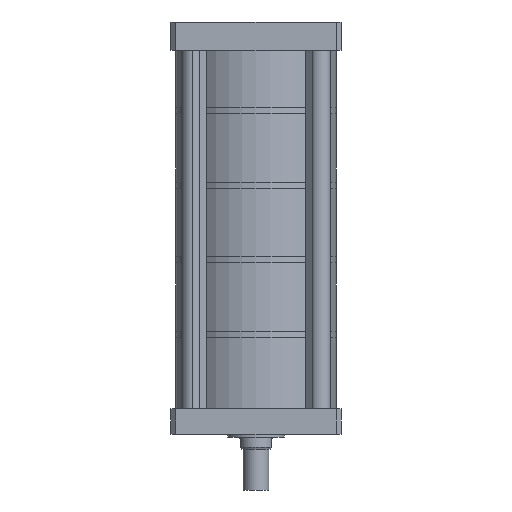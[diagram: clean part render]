
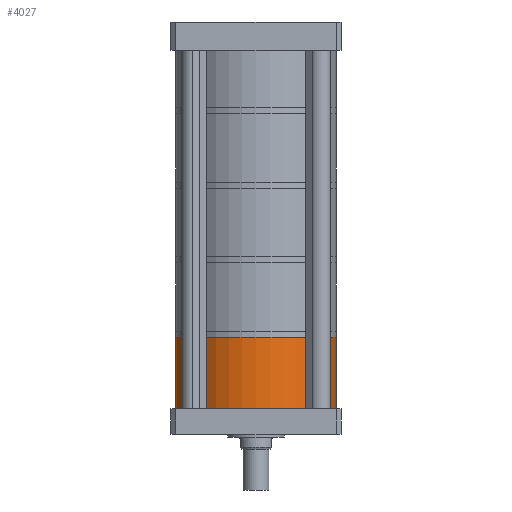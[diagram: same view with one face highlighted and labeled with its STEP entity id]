
A CAD part, front view. The second image highlights one B-rep face of the part: STEP entity #4027.
In plain terms, the highlighted cylindrical face has radius 85 mm (diameter 170 mm), a partial arc.
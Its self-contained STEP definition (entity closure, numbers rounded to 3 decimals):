
#470 = CARTESIAN_POINT ( 'NONE',  ( 85., 0., -304. ) ) ;
#486 = CARTESIAN_POINT ( 'NONE',  ( 0., 0., -304. ) ) ;
#889 = ORIENTED_EDGE ( 'NONE', *, *, #7995, .T. ) ;
#1402 = DIRECTION ( 'NONE',  ( -1., 0., 0. ) ) ;
#1490 = LINE ( 'NONE', #10556, #6151 ) ;
#2097 = CARTESIAN_POINT ( 'NONE',  ( -85., 0., -379.5 ) ) ;
#2676 = DIRECTION ( 'NONE',  ( 0., 0., 1. ) ) ;
#3001 = DIRECTION ( 'NONE',  ( 0., 0., 1. ) ) ;
#3371 = VECTOR ( 'NONE', #3001, 1000. ) ;
#3473 = AXIS2_PLACEMENT_3D ( 'NONE', #486, #6959, #1402 ) ;
#3531 = CARTESIAN_POINT ( 'NONE',  ( 0., 0., -379.5 ) ) ;
#3752 = EDGE_LOOP ( 'NONE', ( #6802, #10687, #889, #4582 ) ) ;
#4027 = ADVANCED_FACE ( 'NONE', ( #6735 ), #11288, .T. ) ;
#4447 = DIRECTION ( 'NONE',  ( 1., 0., 0. ) ) ;
#4452 = DIRECTION ( 'NONE',  ( -1., 0., 0. ) ) ;
#4582 = ORIENTED_EDGE ( 'NONE', *, *, #8936, .T. ) ;
#4691 = AXIS2_PLACEMENT_3D ( 'NONE', #3531, #9973, #4452 ) ;
#5035 = DIRECTION ( 'NONE',  ( 0., 0., 1. ) ) ;
#5434 = CARTESIAN_POINT ( 'NONE',  ( 0., 0., -379.5 ) ) ;
#5520 = VERTEX_POINT ( 'NONE', #11731 ) ;
#6151 = VECTOR ( 'NONE', #5035, 1000. ) ;
#6735 = FACE_OUTER_BOUND ( 'NONE', #3752, .T. ) ;
#6802 = ORIENTED_EDGE ( 'NONE', *, *, #7579, .F. ) ;
#6959 = DIRECTION ( 'NONE',  ( 0., 0., -1. ) ) ;
#7287 = CIRCLE ( 'NONE', #4691, 85. ) ;
#7579 = EDGE_CURVE ( 'NONE', #7919, #5520, #8290, .T. ) ;
#7699 = CARTESIAN_POINT ( 'NONE',  ( 85., 0., -379.5 ) ) ;
#7919 = VERTEX_POINT ( 'NONE', #11339 ) ;
#7995 = EDGE_CURVE ( 'NONE', #11177, #11275, #1490, .T. ) ;
#8290 = LINE ( 'NONE', #2097, #3371 ) ;
#8321 = EDGE_CURVE ( 'NONE', #11177, #7919, #7287, .T. ) ;
#8936 = EDGE_CURVE ( 'NONE', #11275, #5520, #10319, .T. ) ;
#9973 = DIRECTION ( 'NONE',  ( 0., 0., -1. ) ) ;
#10319 = CIRCLE ( 'NONE', #3473, 85. ) ;
#10556 = CARTESIAN_POINT ( 'NONE',  ( 85., 0., -379.5 ) ) ;
#10687 = ORIENTED_EDGE ( 'NONE', *, *, #8321, .F. ) ;
#10847 = AXIS2_PLACEMENT_3D ( 'NONE', #5434, #2676, #4447 ) ;
#11177 = VERTEX_POINT ( 'NONE', #7699 ) ;
#11275 = VERTEX_POINT ( 'NONE', #470 ) ;
#11288 = CYLINDRICAL_SURFACE ( 'NONE', #10847, 85. ) ;
#11339 = CARTESIAN_POINT ( 'NONE',  ( -85., 0., -379.5 ) ) ;
#11731 = CARTESIAN_POINT ( 'NONE',  ( -85., 0., -304. ) ) ;
